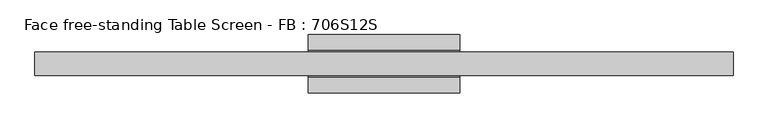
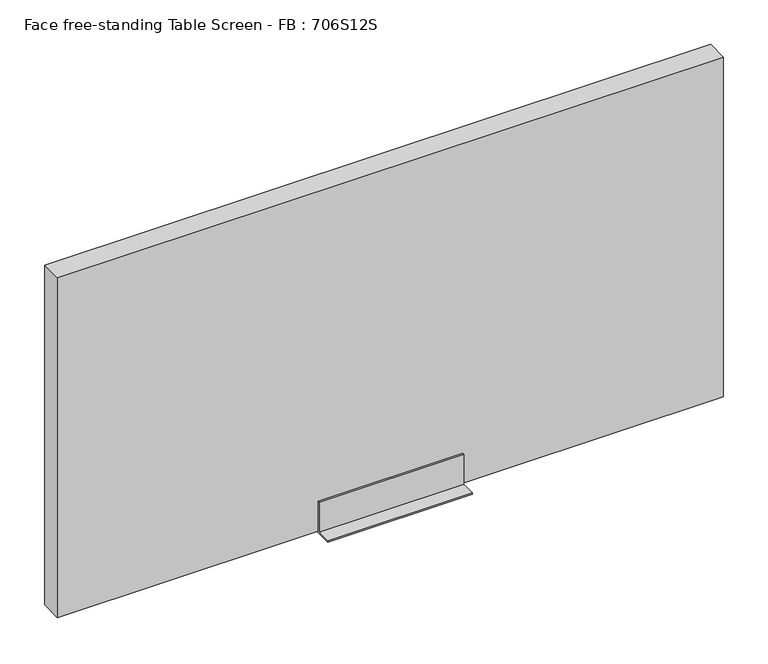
"""IFC4 building model written with IfcOpenShell, lengths in millimetres: furniture geometry, Face free-standing Table Screen - FB : 706S12S."""

from ifc_helpers import new_model, si_unit, frame, origin, place, context, project, spatial, polyline, outline, extrude, source, transform, mapped, element, save


def face_free_standing_table_screen_fb_706s12s_747048ee(model_context):
    return source(origin(), model_context, "Body", "SweptSolid", [
        extrude(outline(polyline([(-50.0, 3.0), (-22.999995, 3.0), (-23.0, 60.0), (-20.0, 60.0), (-20.0, 3.0), (20.0, 3.0), (20.0, 60.0), (23.0, 60.0), (22.999995, 3.0), (50.0, 3.0), (50.0, 0.0), (-50.0, 0.0), (-50.0, 3.0)])), frame((-130.0, 0.0, 0.0), z_axis=(1.0, 0.0, 0.0), x_axis=(0.0, 1.0, 0.0)), (0.0, 0.0, 1.0), 260.0),
        extrude(outline(polyline([(600.0, -20.0), (-600.0, -20.0), (-600.0, 20.0), (600.0, 20.0), (600.0, -20.0)])), frame((0.0, 0.0, 3.0), z_axis=(0.0, 0.0, 1.0), x_axis=(1.0, 0.0, 0.0)), (0.0, 0.0, 1.0), 647.0),
    ])


if __name__ == "__main__":
    model = new_model("IFC4")
    model_context = context("Model", 3, world=origin())
    ifc_project = project(units=[si_unit("LENGTHUNIT", "METRE", prefix="MILLI")], contexts=[model_context])
    site = spatial("IfcSite", under=ifc_project)
    building = spatial("IfcBuilding", under=site)
    placement = place(None, origin())
    face_free_standing_table_screen_fb_706s12s_shape = face_free_standing_table_screen_fb_706s12s_747048ee(model_context)
    element("IfcFurniture", 1, ObjectType="Face free-standing Table Screen - FB : 706S12S", at=placement, inside=building, context=model_context, shape_type="MappedRepresentation", body=[
        mapped(face_free_standing_table_screen_fb_706s12s_shape, transform((0.0, 0.0, 0.0), x_axis=(1.0, 0.0, 0.0), y_axis=(0.0, 1.0, 0.0), z_axis=(0.0, 0.0, 1.0))),
    ])
    save(model, "model.ifc")
